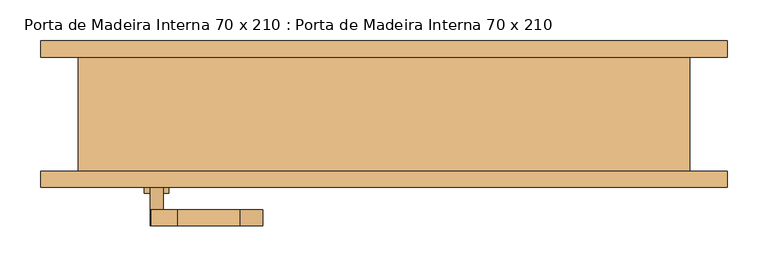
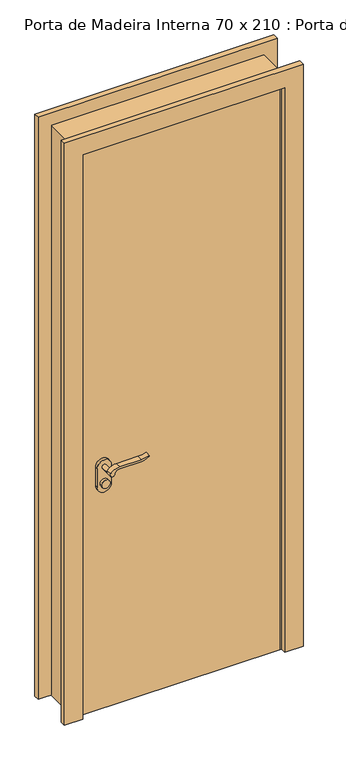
"""IFC4 building model written with IfcOpenShell, lengths in millimetres: door geometry, Porta de Madeira Interna 70 x 210 : Porta de Madeira Interna 70 x 210."""

import ifcopenshell
import ifcopenshell.guid

model = None  # the IFC model being written
_history = None  # IfcOwnerHistory: only IFC2X3 demands one
_inside = {}  # id of a spatial element -> (the spatial element, [elements in it])
_under = {}  # id of a project, library or spatial element -> (it, [spatial elements below it])
_declared = {}  # id of a project -> (the project, [libraries it declares])
_typed = {}  # id of a type object -> (the type object, [elements of that type])
_made_of = {}  # id of a material, layer set ... -> (it, [elements and type objects made of it])


def new_model(schema):
    """Start an empty IFC model of exactly this schema.

    Asked for "IFC4X3", IfcOpenShell would pick the latest addendum, in which some entities
    have other attributes; the version numbers below select the first issue.
    IFC2X3 requires an IfcOwnerHistory on every rooted entity: one is made here for all.
    """
    global model, _history
    if schema == "IFC4X3":
        model = ifcopenshell.file(schema_version=(4, 3, 0, 0))
    else:
        model = ifcopenshell.file(schema=schema)
    _inside.clear()
    _under.clear()
    _declared.clear()
    _typed.clear()
    _made_of.clear()
    _history = None
    if model.schema == "IFC2X3":
        org = make("IfcOrganization", Name="unknown")
        user = make(
            "IfcPersonAndOrganization",
            ThePerson=make("IfcPerson", FamilyName="unknown"),
            TheOrganization=org,
        )
        app = make(
            "IfcApplication",
            ApplicationDeveloper=org,
            Version="unknown",
            ApplicationFullName="unknown",
            ApplicationIdentifier="unknown",
        )
        _history = make(
            "IfcOwnerHistory",
            OwningUser=user,
            OwningApplication=app,
            ChangeAction="ADDED",
            CreationDate=0,
        )
    return model


def make(cls, **values):
    """One entity of the class cls with the attributes given. An attribute that is None is left unset."""
    return model.create_entity(
        cls, **{name: value for name, value in values.items() if value is not None}
    )


def rooted(cls, **values):
    """An entity with a GlobalId (a new one), such as an element, a storey or a relation."""
    return make(cls, GlobalId=ifcopenshell.guid.new(), OwnerHistory=_history, **values)


def si_unit(unit_type, name, prefix=None):
    """IfcSIUnit, for example si_unit("LENGTHUNIT", "METRE", prefix="MILLI")."""
    return make("IfcSIUnit", UnitType=unit_type, Prefix=prefix, Name=name)


def assignment(units):
    """IfcUnitAssignment: the units of a project."""
    return None if units is None else make("IfcUnitAssignment", Units=units)


def point(xyz):
    """IfcCartesianPoint."""
    return None if xyz is None else make("IfcCartesianPoint", Coordinates=xyz)


def direction(xyz):
    """IfcDirection."""
    return None if xyz is None else make("IfcDirection", DirectionRatios=xyz)


def frame(location, z_axis=None, x_axis=None):
    """IfcAxis2Placement3D, a coordinate frame: its origin and axes. An axis left out is left unset."""
    return make(
        "IfcAxis2Placement3D",
        Location=point(location),
        Axis=direction(z_axis),
        RefDirection=direction(x_axis),
    )


def frame_2d(location, x_axis=None):
    """IfcAxis2Placement2D, a coordinate frame in the plane: its origin and x axis."""
    return make(
        "IfcAxis2Placement2D", Location=point(location), RefDirection=direction(x_axis)
    )


def origin():
    """The frame at (0, 0, 0) with its axes left unset."""
    return frame((0.0, 0.0, 0.0))


def origin_with_axes():
    """The frame at (0, 0, 0) with the z axis (0, 0, 1) and the x axis (1, 0, 0) written out."""
    return frame((0.0, 0.0, 0.0), z_axis=(0.0, 0.0, 1.0), x_axis=(1.0, 0.0, 0.0))


def place(relative_to, where):
    """IfcLocalPlacement: puts the frame where relative to a parent placement (None: the world)."""
    return make(
        "IfcLocalPlacement", PlacementRelTo=relative_to, RelativePlacement=where
    )


def context(
    kind, dimensions, precision=None, world=None, true_north=None, identifier=None
):
    """IfcGeometricRepresentationContext, for example the 3D "Model" context."""
    return make(
        "IfcGeometricRepresentationContext",
        ContextIdentifier=identifier,
        ContextType=kind,
        CoordinateSpaceDimension=dimensions,
        Precision=precision,
        WorldCoordinateSystem=world,
        TrueNorth=true_north,
    )


def project(units=None, contexts=None):
    """IfcProject with its units and contexts."""
    return rooted(
        "IfcProject",
        Name="project",
        RepresentationContexts=contexts,
        UnitsInContext=assignment(units),
    )


def spatial(cls, under=None, at=None, **own):
    """A site, building, storey or space (cls), placed at a placement, below another one or the project."""
    s = rooted(cls, ObjectPlacement=at, **own)
    if under is not None:
        _under.setdefault(under.id(), (under, []))[1].append(s)
    return s


def polyline(points):
    """IfcPolyline through the points."""
    return make("IfcPolyline", Points=[point(p) for p in points])


def circle_curve(where, radius):
    """IfcCircle in the frame where."""
    return make("IfcCircle", Position=where, Radius=radius)


def trimmed(basis, trim1, trim2, sense, master):
    """IfcTrimmedCurve: the piece of a basis curve between two trims."""
    return make(
        "IfcTrimmedCurve",
        BasisCurve=basis,
        Trim1=trim1,
        Trim2=trim2,
        SenseAgreement=sense,
        MasterRepresentation=master,
    )


def segment(curve, same_sense, transition):
    """IfcCompositeCurveSegment."""
    return make(
        "IfcCompositeCurveSegment",
        Transition=transition,
        SameSense=same_sense,
        ParentCurve=curve,
    )


def composite_curve(segments, self_intersect=None):
    """IfcCompositeCurve: segments joined end to end."""
    return make("IfcCompositeCurve", Segments=segments, SelfIntersect=self_intersect)


def outline(outer, holes=None, kind="AREA"):
    """IfcArbitraryClosedProfileDef: a profile drawn as a closed curve; with holes, ...WithVoids."""
    if holes is None:
        return make("IfcArbitraryClosedProfileDef", ProfileType=kind, OuterCurve=outer)
    return make(
        "IfcArbitraryProfileDefWithVoids",
        ProfileType=kind,
        OuterCurve=outer,
        InnerCurves=holes,
    )


def extrude(swept, where, along, depth):
    """IfcExtrudedAreaSolid: the profile swept, set in the frame where, extruded along a direction by depth."""
    return make(
        "IfcExtrudedAreaSolid",
        SweptArea=swept,
        Position=where,
        ExtrudedDirection=direction(along),
        Depth=depth,
    )


def faces_of(points, faces, orient=None, outer=None):
    """IfcFace entities. A face is a list of loops; a loop is a list of indices into points, from 0.

    orient and outer hold one flag for each loop. By default every Orientation is true, the
    first loop of a face is its IfcFaceOuterBound and the others are IfcFaceBound.
    """
    made = []
    for i, loops in enumerate(faces):
        bounds = []
        for j, loop in enumerate(loops):
            is_outer = j == 0 if outer is None else outer[i][j]
            bounds.append(
                make(
                    "IfcFaceOuterBound" if is_outer else "IfcFaceBound",
                    Bound=make("IfcPolyLoop", Polygon=[points[k] for k in loop]),
                    Orientation=True if orient is None else orient[i][j],
                )
            )
        made.append(make("IfcFace", Bounds=bounds))
    return made


def faceted_brep(points, faces, orient=None, outer=None, voids=None):
    """IfcFacetedBrep: a solid bounded by flat faces; with voids (closed shells), ...WithVoids."""
    shared = [point(p) for p in points]
    hull = make("IfcClosedShell", CfsFaces=faces_of(shared, faces, orient, outer))
    if voids is None:
        return make("IfcFacetedBrep", Outer=hull)
    return make(
        "IfcFacetedBrepWithVoids",
        Outer=hull,
        Voids=[
            make(cls, CfsFaces=faces_of(shared, fs, o, b)) for cls, fs, o, b in voids
        ],
    )


def shape(context_of_items, identifier, shape_type, items):
    """IfcShapeRepresentation: the items that make up one representation, for example the "Body"."""
    return make(
        "IfcShapeRepresentation",
        ContextOfItems=context_of_items,
        RepresentationIdentifier=identifier,
        RepresentationType=shape_type,
        Items=items,
    )


def source(mapping_origin, context_of_items, identifier, shape_type, items):
    """IfcRepresentationMap: a shape defined once, which mapped items show again and again."""
    return make(
        "IfcRepresentationMap",
        MappingOrigin=mapping_origin,
        MappedRepresentation=shape(context_of_items, identifier, shape_type, items),
    )


def transform(
    local_origin,
    x_axis=None,
    y_axis=None,
    z_axis=None,
    scale=None,
    scale2=None,
    scale3=None,
    uniform=True,
):
    """IfcCartesianTransformationOperator3D, or its non-uniform kind. x_axis, y_axis, z_axis: its Axis1, 2, 3."""
    if uniform:
        return make(
            "IfcCartesianTransformationOperator3D",
            Axis1=direction(x_axis),
            Axis2=direction(y_axis),
            LocalOrigin=point(local_origin),
            Scale=scale,
            Axis3=direction(z_axis),
        )
    return make(
        "IfcCartesianTransformationOperator3DnonUniform",
        Axis1=direction(x_axis),
        Axis2=direction(y_axis),
        LocalOrigin=point(local_origin),
        Scale=scale,
        Axis3=direction(z_axis),
        Scale2=scale2,
        Scale3=scale3,
    )


def mapped(mapping_source, mapping_target):
    """IfcMappedItem: shows the shape of a source again, moved by a transform."""
    return make(
        "IfcMappedItem", MappingSource=mapping_source, MappingTarget=mapping_target
    )


def made_of(thing, what):
    """Note that an element or type object is made of a material, layer set ...; save() writes the relation."""
    if what is not None:
        _made_of.setdefault(what.id(), (what, []))[1].append(thing)
    return thing


def element(
    cls,
    number,
    at=None,
    inside=None,
    cuts=None,
    type_object=None,
    material=None,
    context=None,
    identifier="Body",
    shape_type=None,
    held_by="IfcProductDefinitionShape",
    body=None,
    shapes=None,
    **own,
):
    """One element of the class cls, such as IfcWall. Its Tag is "e" and its number.

    at: its placement. inside: the storey or other place that contains it. cuts: it is an
    opening in that element (IfcRelVoidsElement). A single representation is given by context,
    identifier, shape_type and body (its items); several are given by shapes. held_by: the class
    of the entity that holds the representations. save() writes the other relations.
    """
    e = rooted(cls, Tag="e%d" % number, ObjectPlacement=at, **own)
    if body is not None:
        shapes = [shape(context, identifier, shape_type, body)]
    if shapes is not None:
        e.Representation = make(held_by, Representations=shapes)
    if inside is not None:
        _inside.setdefault(inside.id(), (inside, []))[1].append(e)
    if cuts is not None:
        rooted(
            "IfcRelVoidsElement", RelatingBuildingElement=cuts, RelatedOpeningElement=e
        )
    if type_object is not None:
        _typed.setdefault(type_object.id(), (type_object, []))[1].append(e)
    return made_of(e, material)


def aggregate(whole, parts):
    """IfcRelAggregates: a whole, such as a stair, and the parts it consists of."""
    return rooted("IfcRelAggregates", RelatingObject=whole, RelatedObjects=parts)


def save(model, path):
    """Write the relations noted so far, then the file.

    IfcRelAggregates (storeys below a building ...), IfcRelContainedInSpatialStructure (elements
    in a storey), IfcRelDefinesByType, IfcRelAssociatesMaterial and IfcRelDeclares: one each for
    every whole, place, type object, material and project.
    """
    for whole, parts in _under.values():
        aggregate(whole, parts)
    for where, things in _inside.values():
        rooted(
            "IfcRelContainedInSpatialStructure",
            RelatedElements=things,
            RelatingStructure=where,
        )
    for kind, things in _typed.values():
        rooted("IfcRelDefinesByType", RelatedObjects=things, RelatingType=kind)
    for what, things in _made_of.values():
        rooted("IfcRelAssociatesMaterial", RelatedObjects=things, RelatingMaterial=what)
    for by, libraries in _declared.values():
        rooted("IfcRelDeclares", RelatingContext=by, RelatedDefinitions=libraries)
    model.write(path)


def porta_de_madeira_interna_70_x_210_porta_de_madeira_interna_f307109d(model_context):
    return source(origin(), model_context, "Body", "SolidModel", [
        extrude(outline(composite_curve([segment(trimmed(circle_curve(frame_2d((854.4, -279.0)), 15.0), [point((854.4, -264.0))], [point((854.4, -294.0))], False, "CARTESIAN"), True, "CONTINUOUS"), segment(trimmed(circle_curve(frame_2d((854.4, -279.0)), 15.0), [point((854.4, -294.0))], [point((854.4, -264.0))], False, "CARTESIAN"), True, "CONTINUOUS")], self_intersect=False)), frame((0.0, -93.975, 0.0), z_axis=(0.0, 1.0, 0.0), x_axis=(0.0, 0.0, 1.0)), (0.0, 0.0, 1.0), 10.0),
        extrude(outline(composite_curve([segment(trimmed(circle_curve(frame_2d((854.4, -279.0)), 15.0), [point((854.4, -264.0))], [point((854.4, -294.0))], False, "CARTESIAN"), True, "CONTINUOUS"), segment(trimmed(circle_curve(frame_2d((854.4, -279.0)), 15.0), [point((854.4, -294.0))], [point((854.4, -264.0))], False, "CARTESIAN"), True, "CONTINUOUS")], self_intersect=False)), frame((0.0, -13.975, 0.0), z_axis=(0.0, 1.0, 0.0), x_axis=(0.0, 0.0, 1.0)), (0.0, 0.0, 1.0), 10.0),
        extrude(outline(composite_curve([segment(trimmed(circle_curve(frame_2d((914.4, -279.0)), 8.0), [point((919.0523287, -285.5081363))], [point((914.4, -271.0))], False, "CARTESIAN"), True, "CONTINUOUS"), segment(trimmed(circle_curve(frame_2d((909.2738613, -253.6138099)), 18.1261387), [point((914.4, -271.0))], [point((927.4, -253.6138099))], True, "CARTESIAN"), True, "CONTINUOUS"), segment(polyline([(927.4, -253.6138099), (927.4, -177.3564091)]), True, "CONTINUOUS"), segment(trimmed(circle_curve(frame_2d((986.6709207, -180.9396612)), 59.3791355), [point((927.4, -177.3564091))], [point((936.6135558, -149.0))], False, "CARTESIAN"), True, "CONTINUOUS"), segment(polyline([(936.6135558, -149.0), (939.4, -149.0)]), True, "CONTINUOUS"), segment(trimmed(circle_curve(frame_2d((1017.6850638, -177.4227909)), 83.2850902), [point((939.4, -149.0))], [point((934.4, -177.3564091))], True, "CARTESIAN"), True, "CONTINUOUS"), segment(polyline([(934.4, -177.3564091), (934.4, -253.6325667)]), True, "CONTINUOUS"), segment(trimmed(circle_curve(frame_2d((897.1555521, -255.3324871)), 37.2832219), [point((934.4, -253.6325667))], [point((919.0523287, -285.5081363))], False, "CARTESIAN"), True, "CONTINUOUS")], self_intersect=False)), frame((0.0, -133.975, 0.0), z_axis=(0.0, 1.0, 0.0), x_axis=(0.0, 0.0, 1.0)), (0.0, 0.0, 1.0), 20.0),
        extrude(outline(composite_curve([segment(trimmed(circle_curve(frame_2d((909.2738682, -253.6138122)), 18.1261318), [point((914.3999903, -271.0))], [point((927.4, -253.6138122))], True, "CARTESIAN"), True, "CONTINUOUS"), segment(polyline([(927.4, -253.6138122), (927.4, -177.3564091)]), True, "CONTINUOUS"), segment(trimmed(circle_curve(frame_2d((986.6709207, -180.9396612)), 59.3791355), [point((927.4, -177.3564091))], [point((936.6135558, -149.0))], False, "CARTESIAN"), True, "CONTINUOUS"), segment(polyline([(936.6135558, -149.0), (939.4, -149.0)]), True, "CONTINUOUS"), segment(trimmed(circle_curve(frame_2d((1017.6850638, -177.4227909)), 83.2850902), [point((939.4, -149.0))], [point((934.4, -177.3564091))], True, "CARTESIAN"), True, "CONTINUOUS"), segment(polyline([(934.4, -177.3564091), (934.4, -253.6325667)]), True, "CONTINUOUS"), segment(trimmed(circle_curve(frame_2d((897.1555521, -255.3324871)), 37.2832219), [point((934.4, -253.6325667))], [point((919.0523287, -285.5081363))], False, "CARTESIAN"), True, "CONTINUOUS"), segment(trimmed(circle_curve(frame_2d((914.4, -279.0)), 8.0), [point((919.0523287, -285.5081363))], [point((914.3999903, -271.0))], False, "CARTESIAN"), True, "CONTINUOUS")], self_intersect=False)), frame((0.0, 16.025, 0.0), z_axis=(0.0, 1.0, 0.0), x_axis=(0.0, 0.0, 1.0)), (0.0, 0.0, 1.0), 20.0),
        extrude(outline(composite_curve([segment(trimmed(circle_curve(frame_2d((914.4, -279.0)), 8.0), [point((914.4, -271.0))], [point((914.4, -287.0))], False, "CARTESIAN"), True, "CONTINUOUS"), segment(trimmed(circle_curve(frame_2d((914.4, -279.0)), 8.0), [point((914.4, -287.0))], [point((914.4, -271.0))], False, "CARTESIAN"), True, "CONTINUOUS")], self_intersect=False)), frame((0.0, -113.975, 0.0), z_axis=(0.0, 1.0, 0.0), x_axis=(0.0, 0.0, 1.0)), (0.0, 0.0, 1.0), 30.0),
        extrude(outline(composite_curve([segment(trimmed(circle_curve(frame_2d((914.4, -279.0)), 8.0), [point((914.4, -271.0))], [point((914.4, -287.0))], False, "CARTESIAN"), True, "CONTINUOUS"), segment(trimmed(circle_curve(frame_2d((914.4, -279.0)), 8.0), [point((914.4, -287.0))], [point((914.4, -271.0))], False, "CARTESIAN"), True, "CONTINUOUS")], self_intersect=False)), frame((0.0, -13.975, 0.0), z_axis=(0.0, 1.0, 0.0), x_axis=(0.0, 0.0, 1.0)), (0.0, 0.0, 1.0), 30.0),
        extrude(outline(composite_curve([segment(trimmed(circle_curve(frame_2d((844.4, -279.0)), 25.0), [point((844.4, -304.0))], [point((844.4, -254.0))], False, "CARTESIAN"), True, "CONTINUOUS"), segment(polyline([(844.4, -254.0), (914.4, -254.0)]), True, "CONTINUOUS"), segment(trimmed(circle_curve(frame_2d((914.4, -279.0)), 25.0), [point((914.4, -254.0))], [point((914.4, -304.0))], False, "CARTESIAN"), True, "CONTINUOUS"), segment(polyline([(914.4, -304.0), (844.4, -304.0)]), True, "CONTINUOUS")], self_intersect=False)), frame((0.0, -83.975, 0.0), z_axis=(0.0, 1.0, 0.0), x_axis=(0.0, 0.0, 1.0)), (0.0, 0.0, 1.0), 10.0),
        extrude(outline(composite_curve([segment(trimmed(circle_curve(frame_2d((844.4, -279.0)), 25.0), [point((844.4, -304.0))], [point((844.4, -254.0))], False, "CARTESIAN"), True, "CONTINUOUS"), segment(polyline([(844.4, -254.0), (914.4, -254.0)]), True, "CONTINUOUS"), segment(trimmed(circle_curve(frame_2d((914.4, -279.0)), 25.0), [point((914.4, -254.0))], [point((914.4, -304.0))], False, "CARTESIAN"), True, "CONTINUOUS"), segment(polyline([(914.4, -304.0), (844.4, -304.0)]), True, "CONTINUOUS")], self_intersect=False)), frame((0.0, -23.975, 0.0), z_axis=(0.0, 1.0, 0.0), x_axis=(0.0, 0.0, 1.0)), (0.0, 0.0, 1.0), 10.0),
        extrude(outline(polyline([(350.0, -26.825), (350.0, -66.825), (-350.0, -66.825), (-350.0, -26.825), (350.0, -26.825)])), origin_with_axes(), (0.0, 0.0, 1.0), 2100.0),
        faceted_brep([(375.0, -66.825, 0.0), (350.0, -66.825, 0.0), (350.0, -26.825, 0.0), (337.3, -26.825, 0.0), (337.3, 8.1, 0.0), (350.0, 8.1, 0.0), (350.0, 73.175, 0.0), (375.0, 73.175, 0.0), (375.0, 73.175, 2125.0), (375.0, -66.825, 2125.0), (350.0, 73.175, 2100.0), (-350.0, 73.175, 2100.0), (-350.0, 73.175, 0.0), (-375.0, 73.175, 0.0), (-375.0, 73.175, 2125.0), (350.0, 8.1, 2100.0), (337.3, 8.1, 2087.3), (-337.3, 8.1, 2087.3), (-337.3, 8.1, 0.0), (-350.0, 8.1, 0.0), (-350.0, 8.1, 2100.0), (337.3, -26.825, 2087.3), (350.0, -26.825, 2100.0), (-350.0, -26.825, 2100.0), (-350.0, -26.825, 0.0), (-337.3, -26.825, 0.0), (-337.3, -26.825, 2087.3), (350.0, -66.825, 2100.0), (-375.0, -66.825, 2125.0), (-375.0, -66.825, 0.0), (-350.0, -66.825, 0.0), (-350.0, -66.825, 2100.0)], [[[0, 1, 2, 3, 4, 5, 6, 7]], [[7, 8, 9, 0]], [[6, 10, 11, 12, 13, 14, 8, 7]], [[5, 15, 10, 6]], [[4, 16, 17, 18, 19, 20, 15, 5]], [[3, 21, 16, 4]], [[2, 22, 23, 24, 25, 26, 21, 3]], [[1, 27, 22, 2]], [[0, 9, 28, 29, 30, 31, 27, 1]], [[8, 14, 28, 9]], [[15, 20, 11, 10]], [[21, 26, 17, 16]], [[27, 31, 23, 22]], [[29, 13, 12, 19, 18, 25, 24, 30]], [[14, 13, 29, 28]], [[20, 19, 12, 11]], [[26, 25, 18, 17]], [[31, 30, 24, 23]]]),
        extrude(outline(polyline([(0.0, 421.35), (2171.35, 421.35), (2171.35, -421.35), (0.0, -421.35), (0.0, -356.35), (2106.35, -356.35), (2106.35, 356.35), (0.0, 356.35), (0.0, 421.35)])), frame((0.0, 73.175, 0.0), z_axis=(0.0, 1.0, 0.0), x_axis=(0.0, 0.0, 1.0)), (0.0, 0.0, 1.0), 20.0),
        extrude(outline(polyline([(0.0, 421.35), (2171.35, 421.35), (2171.35, -421.35), (0.0, -421.35), (0.0, -356.35), (2106.35, -356.35), (2106.35, 356.35), (0.0, 356.35), (0.0, 421.35)])), frame((0.0, -86.825, 0.0), z_axis=(0.0, 1.0, 0.0), x_axis=(0.0, 0.0, 1.0)), (0.0, 0.0, 1.0), 20.0),
    ])


if __name__ == "__main__":
    model = new_model("IFC4")
    model_context = context("Model", 3, world=origin())
    ifc_project = project(units=[si_unit("LENGTHUNIT", "METRE", prefix="MILLI")], contexts=[model_context])
    site = spatial("IfcSite", under=ifc_project)
    building = spatial("IfcBuilding", under=site)
    placement = place(None, origin())
    porta_de_madeira_interna_70_x_210_porta_de_madeira_interna_shape = porta_de_madeira_interna_70_x_210_porta_de_madeira_interna_f307109d(model_context)
    element("IfcDoor", 1, ObjectType="Porta de Madeira Interna 70 x 210 : Porta de Madeira Interna 70 x 210", at=placement, inside=building, context=model_context, shape_type="MappedRepresentation", body=[
        mapped(porta_de_madeira_interna_70_x_210_porta_de_madeira_interna_shape, transform((0.0, 0.0, 0.0), x_axis=(1.0, 0.0, 0.0), y_axis=(0.0, 1.0, 0.0), z_axis=(0.0, 0.0, 1.0))),
    ])
    save(model, "model.ifc")
